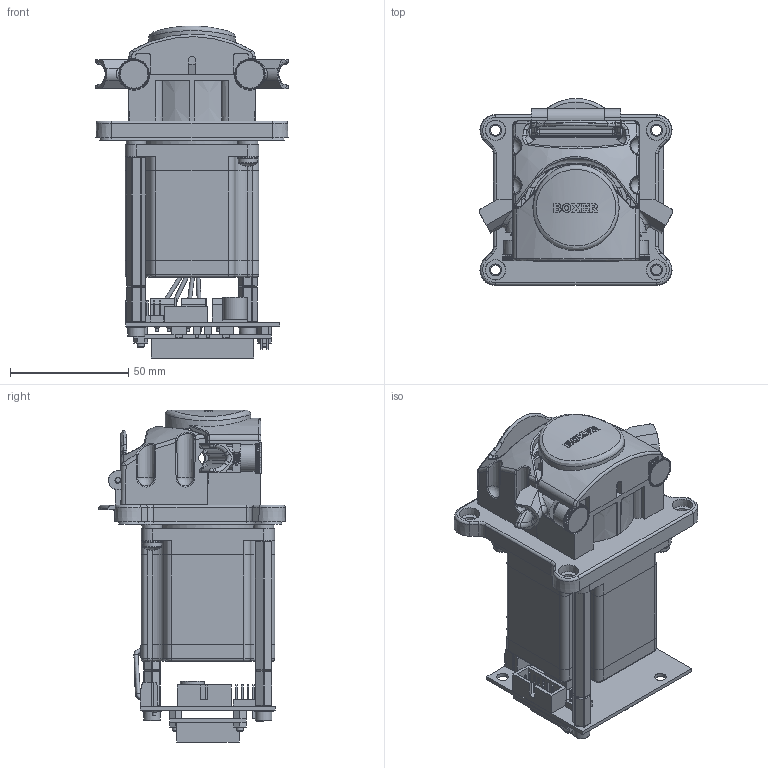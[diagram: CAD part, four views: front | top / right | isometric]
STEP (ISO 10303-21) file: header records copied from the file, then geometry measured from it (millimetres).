
FILE_DESCRIPTION (( 'STEP AP214' ), '1' );
FILE_NAME ('SOLID_15QQ+_NEMA23+iD.STEP', '2025-03-27T16:15:33', ( '' ), ( '' ), 'SwSTEP 2.0', 'SolidWorks 2021', '' );
FILE_SCHEMA (( 'AUTOMOTIVE_DESIGN' ));
Length unit declared in the file: millimetre
Products named in the file (1): SOLID_15QQ+_NEMA23+iD
Bounding box: 81.81 x 78.98 x 140.28 mm (x, y, z)
Volume: 170823.2 mm3; surface area: 99757.1 mm2
Topology: 7 solids, 26 shells, 3779 faces, 10238 edges, 6556 vertices
Faces by surface type: plane 2356, cylinder 470, bspline 466, cone 332, torus 85, sphere 70
Full cylindrical faces by diameter (mm): 1.3 x6, 1.65 x12, 2.5 x8, 2.6 x2, 2.8 x10, 2.98 x2, 3 x9, 3.2 x4, 3.7 x2, 4 x8, 4.2 x4, 4.3 x2, 4.5 x2, 4.8 x2, 5 x12, 5.2 x2, 7 x2, 8 x4, 10.2 x1, 31 x1, 38.634 x1
Entity records: 186056 total; most frequent: CARTESIAN_POINT 55866, ORIENTED_EDGE 19756, DIRECTION 16207, EDGE_CURVE 9878, VERTEX_POINT 6455, VECTOR 6201, LINE 6201, AXIS2_PLACEMENT_3D 5003
